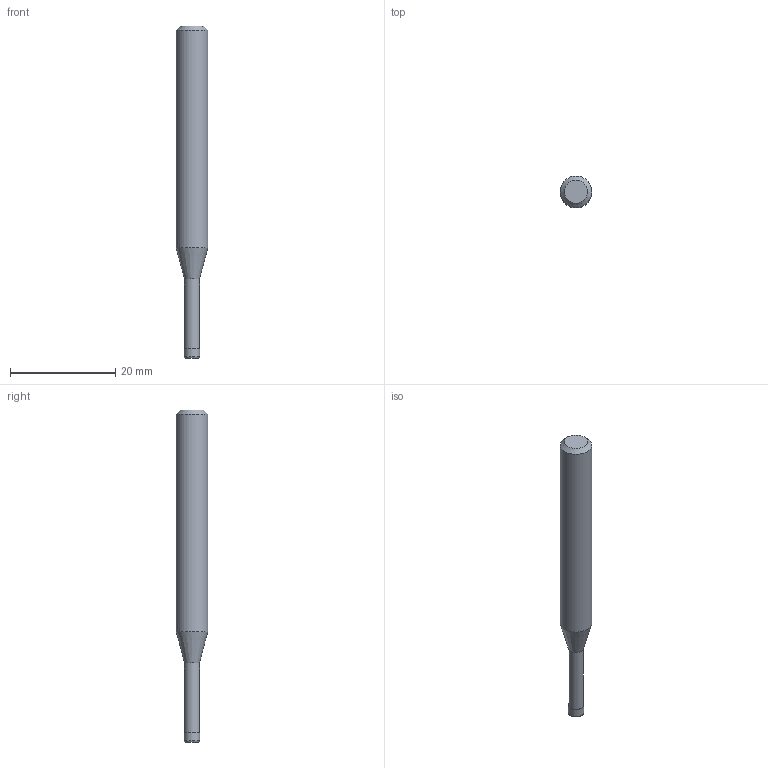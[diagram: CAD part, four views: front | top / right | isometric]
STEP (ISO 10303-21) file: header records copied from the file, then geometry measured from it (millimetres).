
FILE_DESCRIPTION((''),'2;1');
FILE_NAME('C:\Users\nsx150\AppData\Local\Temp\Mastercam 2021\LJSIDMOTM8\TEMP.step','2021-08-03T14:06:19',(''),(''),'STEP Write','Mastercam 2021 ... CNC Software, Inc.','');
FILE_SCHEMA(('AUTOMOTIVE_DESIGN'));
Length unit declared in the file: millimetre
Products named in the file (1): None
Bounding box: 6 x 6 x 63 mm (x, y, z)
Volume: 1376.5 mm3; surface area: 1052 mm2
Topology: 2 solids, 2 shells, 10 faces, 14 edges, 8 vertices
Faces by surface type: plane 4, cylinder 3, cone 2, torus 1
Full cylindrical faces by diameter (mm): 2.85 x1, 3 x1, 6 x1
Entity records: 232 total; most frequent: DIRECTION 40, CARTESIAN_POINT 28, AXIS2_PLACEMENT_3D 20, ORIENTED_EDGE 16, EDGE_LOOP 16, STYLED_ITEM 13, ADVANCED_FACE 10, FACE_BOUND 10
